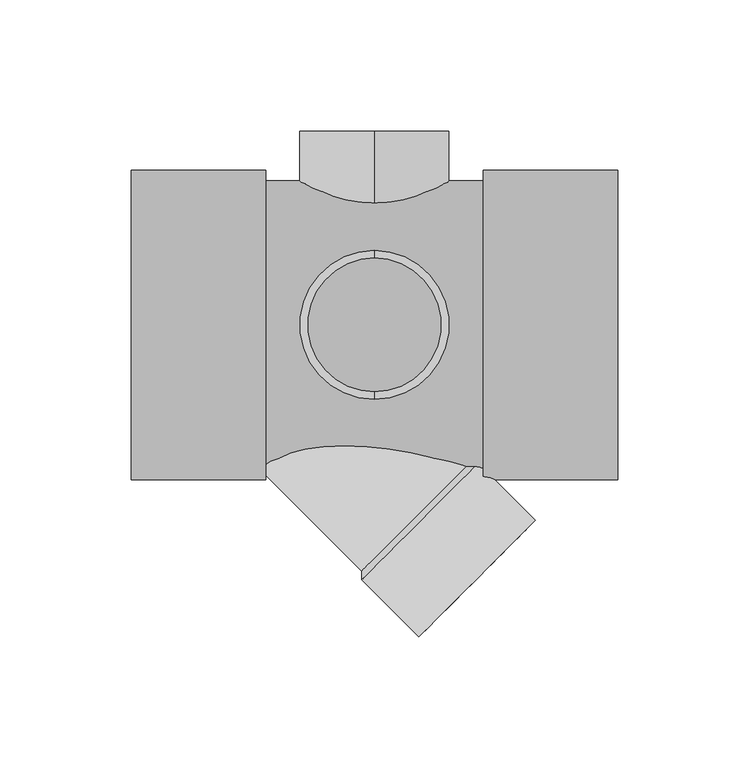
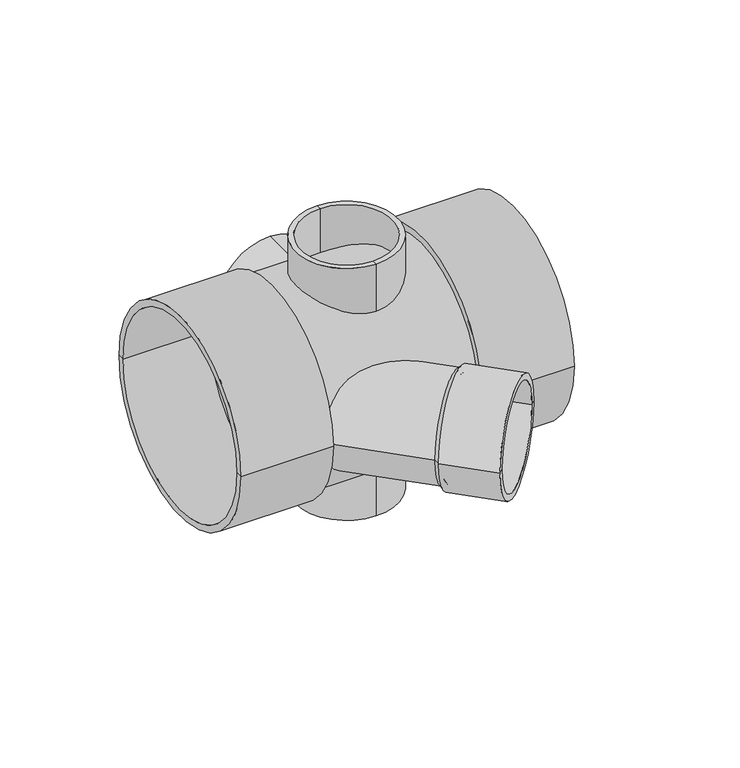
"""IFC4 building model written with IfcOpenShell, lengths in millimetres: pipe fitting geometry, MarleyPlumbingAndDrainage_PipeFitting_BossPipe_SWS4135 : 110x50mm  - Grey."""

from ifc_helpers import new_model, si_unit, frame, origin, place, context, project, spatial, polyline, circle_curve, source, transform, mapped, element, save
from ifc_brep_helpers import plane_surface, cylinder_surface, revolved_surface, advanced_brep


def pipe_fitting_2f369d07(model_context):
    return source(origin(), model_context, "Body", "AdvancedBrep", [
        advanced_brep(
        [(119.0086053, -74.5457309, 0.0), (74.5457309, -119.0086053, 0.0), (52.8316652, -97.2945396, 0.0), (97.2945396, -52.8316652, 0.0), (52.8316652, -93.9004271, 0.0), (93.9004271, -52.8316652, 0.0), (12.9858274, -54.0545893, 0.0), (54.0545893, -12.9858274, 0.0), (33.5202084, -33.5202084, 0.0), (74.3618831, -74.3618831, 0.0), (56.2316652, -92.492101, 0.0), (92.492101, -56.2316652, 0.0), (56.2316652, -95.8862135, 0.0), (95.8862135, -56.2316652, 0.0), (76.9498939, -116.6044422, 0.0), (116.6044422, -76.9498939, 0.0)],
        [
            (0, 1, circle_curve(frame((96.7771681, -96.7771681, 0.0), z_axis=(-0.7071067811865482, 0.7071067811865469, 0.0), x_axis=(-0.7071067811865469, -0.7071067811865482, 0.0)), 31.44)),
            (1, 2),
            (2, 3, circle_curve(frame((75.0631024, -75.0631024, 0.0), z_axis=(0.7071067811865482, -0.7071067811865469, 0.0), x_axis=(-0.7071067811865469, -0.7071067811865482, 0.0)), 31.44)),
            (3, 0),
            (1, 0, circle_curve(frame((96.7771681, -96.7771681, 0.0), z_axis=(-0.7071067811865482, 0.7071067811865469, 0.0), x_axis=(-0.7071067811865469, -0.7071067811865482, 0.0)), 31.44)),
            (3, 2, circle_curve(frame((75.0631024, -75.0631024, 0.0), z_axis=(0.7071067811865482, -0.7071067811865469, 0.0), x_axis=(-0.7071067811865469, -0.7071067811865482, 0.0)), 31.44)),
            (2, 4),
            (4, 5, circle_curve(frame((73.3660461, -73.3660461, 0.0), z_axis=(0.7071067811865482, -0.7071067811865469, 0.0), x_axis=(-0.7071067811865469, -0.7071067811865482, 0.0)), 29.04)),
            (5, 3),
            (5, 4, circle_curve(frame((73.3660461, -73.3660461, 0.0), z_axis=(0.7071067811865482, -0.7071067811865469, 0.0), x_axis=(-0.7071067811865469, -0.7071067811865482, 0.0)), 29.04)),
            (4, 6),
            (6, 7, circle_curve(frame((33.5202084, -33.5202084, 0.0), z_axis=(0.7071067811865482, -0.7071067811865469, 0.0), x_axis=(-0.7071067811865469, -0.7071067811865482, 0.0)), 29.04)),
            (7, 5),
            (7, 6, circle_curve(frame((33.5202084, -33.5202084, 0.0), z_axis=(0.7071067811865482, -0.7071067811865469, 0.0), x_axis=(-0.7071067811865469, -0.7071067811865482, 0.0)), 29.04)),
            (6, 8),
            (8, 7),
            (9, 10),
            (10, 11, circle_curve(frame((74.3618831, -74.3618831, 0.0), z_axis=(0.7071067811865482, -0.7071067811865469, 0.0), x_axis=(-0.7071067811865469, -0.7071067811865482, 0.0)), 25.64)),
            (11, 9),
            (11, 10, circle_curve(frame((74.3618831, -74.3618831, 0.0), z_axis=(0.7071067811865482, -0.7071067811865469, 0.0), x_axis=(-0.7071067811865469, -0.7071067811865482, 0.0)), 25.64)),
            (10, 12),
            (12, 13, circle_curve(frame((76.0589394, -76.0589394, 0.0), z_axis=(0.7071067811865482, -0.7071067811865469, 0.0), x_axis=(-0.7071067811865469, -0.7071067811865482, 0.0)), 28.04)),
            (13, 11),
            (13, 12, circle_curve(frame((76.0589394, -76.0589394, 0.0), z_axis=(0.7071067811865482, -0.7071067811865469, 0.0), x_axis=(-0.7071067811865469, -0.7071067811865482, 0.0)), 28.04)),
            (12, 14),
            (14, 15, circle_curve(frame((96.7771681, -96.7771681, 0.0), z_axis=(0.7071067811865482, -0.7071067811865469, 0.0), x_axis=(-0.7071067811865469, -0.7071067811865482, 0.0)), 28.04)),
            (15, 13),
            (15, 14, circle_curve(frame((96.7771681, -96.7771681, 0.0), z_axis=(0.7071067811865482, -0.7071067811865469, 0.0), x_axis=(-0.7071067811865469, -0.7071067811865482, 0.0)), 28.04)),
            (14, 1),
            (0, 15),
        ],
        [
            cylinder_surface(frame((96.7771681, -96.7771681, 0.0), z_axis=(0.7071067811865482, -0.7071067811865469, 0.0), x_axis=(-0.7071067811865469, -0.7071067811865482, 0.0)), 31.44),
            revolved_surface(polyline([(52.8316652, -93.9004271, 0.0), (52.8316652, -97.2945396, 0.0)]), (96.7771681, -96.7771681, 0.0), (0.7071067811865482, -0.7071067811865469, 0.0)),
            cylinder_surface(frame((96.7771681, -96.7771681, 0.0), z_axis=(0.7071067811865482, -0.7071067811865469, 0.0), x_axis=(-0.7071067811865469, -0.7071067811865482, 0.0)), 29.04),
            plane_surface(frame((33.5202084, -33.5202084, 0.0), z_axis=(-0.7071067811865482, 0.7071067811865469, 0.0), x_axis=(-0.7071067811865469, -0.7071067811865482, 0.0))),
            plane_surface(frame((74.3618831, -74.3618831, 0.0), z_axis=(0.7071067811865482, -0.7071067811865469, 0.0), x_axis=(-0.7071067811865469, -0.7071067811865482, 0.0))),
            revolved_surface(polyline([(56.2316652, -95.8862135, 0.0), (56.2316652, -92.492101, 0.0)]), (96.7771681, -96.7771681, 0.0), (0.7071067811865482, -0.7071067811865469, 0.0)),
            revolved_surface(polyline([(76.94989395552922, -116.60444224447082, 0.0), (56.23166520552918, -95.88621349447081, 0.0)]), (96.7771681, -96.7771681, 0.0), (0.7071067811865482, -0.7071067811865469, 0.0)),
            plane_surface(frame((96.7771681, -96.7771681, 0.0), z_axis=(0.7071067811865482, -0.7071067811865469, 0.0), x_axis=(-0.7071067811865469, -0.7071067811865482, 0.0))),
        ],
        [
            (0, [[1, 2, 3, 4]]),
            (0, [[5, -4, 6, -2]]),
            (1, [[-3, 7, 8, 9]]),
            (1, [[-6, -9, 10, -7]]),
            (2, [[-8, 11, 12, 13]]),
            (2, [[-10, -13, 14, -11]]),
            (3, [[-12, 15, 16]]),
            (3, [[-14, -16, -15]]),
            (4, [[17, 18, 19]]),
            (4, [[-19, 20, -17]]),
            (5, [[-18, 21, 22, 23]]),
            (5, [[-20, -23, 24, -21]]),
            (6, [[-22, 25, 26, 27]]),
            (6, [[-24, -27, 28, -25]]),
            (7, [[-26, 29, -1, 30]]),
            (7, [[-28, -30, -5, -29]]),
        ],
    ),
        advanced_brep(
        [(57.65, -25.5597378, 74.2), (57.65, 25.5597378, 74.2), (57.65, 28.42, 74.2), (57.65, -28.42, 74.2), (57.65, 28.42, 39.2), (57.65, -28.42, 39.2), (57.65, 25.5597378, 39.2), (57.65, -25.5597378, 39.2)],
        [
            (0, 1, circle_curve(frame((57.65, 0.0, 74.2), z_axis=(0.0, 0.0, -1.0), x_axis=(0.0, 1.0, 0.0)), 25.5597378)),
            (1, 2),
            (2, 3, circle_curve(frame((57.65, 0.0, 74.2), z_axis=(0.0, 0.0, 1.0), x_axis=(0.0, 1.0, 0.0)), 28.42)),
            (3, 0),
            (1, 0, circle_curve(frame((57.65, 0.0, 74.2), z_axis=(0.0, 0.0, -1.0), x_axis=(0.0, 1.0, 0.0)), 25.5597378)),
            (3, 2, circle_curve(frame((57.65, 0.0, 74.2), z_axis=(0.0, 0.0, 1.0), x_axis=(0.0, 1.0, 0.0)), 28.42)),
            (2, 4),
            (4, 5, circle_curve(frame((57.65, 0.0, 39.2), z_axis=(0.0, 0.0, 1.0), x_axis=(0.0, 1.0, 0.0)), 28.42)),
            (5, 3),
            (5, 4, circle_curve(frame((57.65, 0.0, 39.2), z_axis=(0.0, 0.0, 1.0), x_axis=(0.0, 1.0, 0.0)), 28.42)),
            (4, 6),
            (6, 7, circle_curve(frame((57.65, 0.0, 39.2), z_axis=(0.0, 0.0, 1.0), x_axis=(0.0, 1.0, 0.0)), 25.5597378)),
            (7, 5),
            (7, 6, circle_curve(frame((57.65, 0.0, 39.2), z_axis=(0.0, 0.0, 1.0), x_axis=(0.0, 1.0, 0.0)), 25.5597378)),
            (6, 1),
            (0, 7),
        ],
        [
            plane_surface(frame((57.65, 0.0, 74.2), z_axis=(0.0, 0.0, 1.0), x_axis=(0.0, 1.0, 0.0))),
            cylinder_surface(frame((57.65, 0.0, 79.2), z_axis=(0.0, 0.0, 1.0), x_axis=(0.0, 1.0, 0.0)), 28.42),
            plane_surface(frame((57.65, 0.0, 39.2), z_axis=(0.0, 0.0, -1.0), x_axis=(0.0, 1.0, 0.0))),
            revolved_surface(polyline([(57.65, 25.5597378, 74.2), (57.65, 25.5597378, 39.2)]), (57.65, 0.0, 79.2), (0.0, 0.0, 1.0)),
        ],
        [
            (0, [[1, 2, 3, 4]]),
            (0, [[5, -4, 6, -2]]),
            (1, [[-3, 7, 8, 9]]),
            (1, [[-6, -9, 10, -7]]),
            (2, [[-8, 11, 12, 13]]),
            (2, [[-10, -13, 14, -11]]),
            (3, [[-12, 15, -1, 16]]),
            (3, [[-14, -16, -5, -15]]),
        ],
    ),
        advanced_brep(
        [(57.65, 73.95, -28.42), (57.65, 73.95, 28.42), (57.65, 73.95, 25.5360435), (57.65, 73.95, -25.5360435), (57.65, 38.95, -28.42), (57.65, 38.95, 28.42), (57.65, 38.95, -25.5360435), (57.65, 38.95, 25.5360435)],
        [
            (0, 1, circle_curve(frame((57.65, 73.95, 0.0), z_axis=(0.0, 1.0, 0.0), x_axis=(0.0, 0.0, 1.0)), 28.42)),
            (1, 2),
            (2, 3, circle_curve(frame((57.65, 73.95, 0.0), z_axis=(0.0, -1.0, 0.0), x_axis=(0.0, 0.0, 1.0)), 25.5360435)),
            (3, 0),
            (1, 0, circle_curve(frame((57.65, 73.95, 0.0), z_axis=(0.0, 1.0, 0.0), x_axis=(0.0, 0.0, 1.0)), 28.42)),
            (3, 2, circle_curve(frame((57.65, 73.95, 0.0), z_axis=(0.0, -1.0, 0.0), x_axis=(0.0, 0.0, 1.0)), 25.5360435)),
            (4, 5, circle_curve(frame((57.65, 38.95, 0.0), z_axis=(0.0, 1.0, 0.0), x_axis=(0.0, 0.0, 1.0)), 28.42)),
            (5, 1),
            (0, 4),
            (5, 4, circle_curve(frame((57.65, 38.95, 0.0), z_axis=(0.0, 1.0, 0.0), x_axis=(0.0, 0.0, 1.0)), 28.42)),
            (6, 7, circle_curve(frame((57.65, 38.95, 0.0), z_axis=(0.0, 1.0, 0.0), x_axis=(0.0, 0.0, 1.0)), 25.5360435)),
            (7, 5),
            (4, 6),
            (7, 6, circle_curve(frame((57.65, 38.95, 0.0), z_axis=(0.0, 1.0, 0.0), x_axis=(0.0, 0.0, 1.0)), 25.5360435)),
            (2, 7),
            (6, 3),
        ],
        [
            plane_surface(frame((57.65, 73.95, 0.0), z_axis=(0.0, 1.0, 0.0), x_axis=(0.0, 0.0, 1.0))),
            cylinder_surface(frame((57.65, 78.95, 0.0), z_axis=(0.0, -1.0, 0.0), x_axis=(0.0, 0.0, 1.0)), 28.42),
            plane_surface(frame((57.65, 38.95, 0.0), z_axis=(0.0, -1.0, 0.0), x_axis=(0.0, 0.0, 1.0))),
            revolved_surface(polyline([(57.65, 38.95, 25.5360435), (57.65, 73.95, 25.5360435)]), (57.65, 78.95, 0.0), (0.0, -1.0, 0.0)),
        ],
        [
            (0, [[1, 2, 3, 4]]),
            (0, [[5, -4, 6, -2]]),
            (1, [[7, 8, -1, 9]]),
            (1, [[10, -9, -5, -8]]),
            (2, [[11, 12, -7, 13]]),
            (2, [[14, -13, -10, -12]]),
            (3, [[-3, 15, -11, 16]]),
            (3, [[-6, -16, -14, -15]]),
        ],
    ),
        advanced_brep(
        [(-35.2, -58.97, 0.0), (-35.2, 58.97, 0.0), (16.2, 58.97, 0.0), (16.2, -58.97, 0.0), (16.2, 54.95, 0.0), (16.2, -54.95, 0.0), (99.1, 54.95, 0.0), (99.1, -54.95, 0.0), (99.1, 58.97, 0.0), (99.1, -58.97, 0.0), (150.5, 58.97, 0.0), (150.5, -58.97, 0.0), (150.5, 55.2, 0.0), (150.5, -55.2, 0.0), (102.5, 55.2, 0.0), (102.5, -55.2, 0.0), (102.5, 0.0, 0.0), (12.8, 0.0, 0.0), (12.8, 55.2, 0.0), (12.8, -55.2, 0.0), (-35.2, 55.2, 0.0), (-35.2, -55.2, 0.0)],
        [
            (0, 1, circle_curve(frame((-35.2, 0.0, 0.0), z_axis=(1.0, 0.0, 0.0), x_axis=(0.0, 1.0, 0.0)), 58.97)),
            (1, 2),
            (2, 3, circle_curve(frame((16.2, 0.0, 0.0), z_axis=(-1.0, 0.0, 0.0), x_axis=(0.0, 1.0, 0.0)), 58.97)),
            (3, 0),
            (1, 0, circle_curve(frame((-35.2, 0.0, 0.0), z_axis=(1.0, 0.0, 0.0), x_axis=(0.0, 1.0, 0.0)), 58.97)),
            (3, 2, circle_curve(frame((16.2, 0.0, 0.0), z_axis=(-1.0, 0.0, 0.0), x_axis=(0.0, 1.0, 0.0)), 58.97)),
            (2, 4),
            (4, 5, circle_curve(frame((16.2, 0.0, 0.0), z_axis=(-1.0, 0.0, 0.0), x_axis=(0.0, 1.0, 0.0)), 54.95)),
            (5, 3),
            (5, 4, circle_curve(frame((16.2, 0.0, 0.0), z_axis=(-1.0, 0.0, 0.0), x_axis=(0.0, 1.0, 0.0)), 54.95)),
            (4, 6),
            (6, 7, circle_curve(frame((99.1, 0.0, 0.0), z_axis=(-1.0, 0.0, 0.0), x_axis=(0.0, 1.0, 0.0)), 54.95)),
            (7, 5),
            (7, 6, circle_curve(frame((99.1, 0.0, 0.0), z_axis=(-1.0, 0.0, 0.0), x_axis=(0.0, 1.0, 0.0)), 54.95)),
            (6, 8),
            (8, 9, circle_curve(frame((99.1, 0.0, 0.0), z_axis=(-1.0, 0.0, 0.0), x_axis=(0.0, 1.0, 0.0)), 58.97)),
            (9, 7),
            (9, 8, circle_curve(frame((99.1, 0.0, 0.0), z_axis=(-1.0, 0.0, 0.0), x_axis=(0.0, 1.0, 0.0)), 58.97)),
            (8, 10),
            (10, 11, circle_curve(frame((150.5, 0.0, 0.0), z_axis=(-1.0, 0.0, 0.0), x_axis=(0.0, 1.0, 0.0)), 58.97)),
            (11, 9),
            (11, 10, circle_curve(frame((150.5, 0.0, 0.0), z_axis=(-1.0, 0.0, 0.0), x_axis=(0.0, 1.0, 0.0)), 58.97)),
            (10, 12),
            (12, 13, circle_curve(frame((150.5, 0.0, 0.0), z_axis=(-1.0, 0.0, 0.0), x_axis=(0.0, 1.0, 0.0)), 55.2)),
            (13, 11),
            (13, 12, circle_curve(frame((150.5, 0.0, 0.0), z_axis=(-1.0, 0.0, 0.0), x_axis=(0.0, 1.0, 0.0)), 55.2)),
            (12, 14),
            (14, 15, circle_curve(frame((102.5, 0.0, 0.0), z_axis=(-1.0, 0.0, 0.0), x_axis=(0.0, 1.0, 0.0)), 55.2)),
            (15, 13),
            (15, 14, circle_curve(frame((102.5, 0.0, 0.0), z_axis=(-1.0, 0.0, 0.0), x_axis=(0.0, 1.0, 0.0)), 55.2)),
            (14, 16),
            (16, 15),
            (17, 18),
            (18, 19, circle_curve(frame((12.8, 0.0, 0.0), z_axis=(-1.0, 0.0, 0.0), x_axis=(0.0, 1.0, 0.0)), 55.2)),
            (19, 17),
            (19, 18, circle_curve(frame((12.8, 0.0, 0.0), z_axis=(-1.0, 0.0, 0.0), x_axis=(0.0, 1.0, 0.0)), 55.2)),
            (18, 20),
            (20, 21, circle_curve(frame((-35.2, 0.0, 0.0), z_axis=(-1.0, 0.0, 0.0), x_axis=(0.0, 1.0, 0.0)), 55.2)),
            (21, 19),
            (21, 20, circle_curve(frame((-35.2, 0.0, 0.0), z_axis=(-1.0, 0.0, 0.0), x_axis=(0.0, 1.0, 0.0)), 55.2)),
            (20, 1),
            (0, 21),
        ],
        [
            cylinder_surface(frame((2000.0, 0.0, 0.0), z_axis=(-1.0, 0.0, 0.0), x_axis=(0.0, 1.0, 0.0)), 58.97),
            plane_surface(frame((16.2, 0.0, 0.0), z_axis=(1.0, 0.0, 0.0), x_axis=(0.0, 1.0, 0.0))),
            cylinder_surface(frame((2000.0, 0.0, 0.0), z_axis=(-1.0, 0.0, 0.0), x_axis=(0.0, 1.0, 0.0)), 54.95),
            plane_surface(frame((99.1, 0.0, 0.0), z_axis=(-1.0, 0.0, 0.0), x_axis=(0.0, 1.0, 0.0))),
            plane_surface(frame((150.5, 0.0, 0.0), z_axis=(1.0, 0.0, 0.0), x_axis=(0.0, 1.0, 0.0))),
            revolved_surface(polyline([(102.5, 55.2, 0.0), (150.5, 55.2, 0.0)]), (2000.0, 0.0, 0.0), (-1.0, 0.0, 0.0)),
            plane_surface(frame((102.5, 0.0, 0.0), z_axis=(1.0, 0.0, 0.0), x_axis=(0.0, 1.0, 0.0))),
            plane_surface(frame((12.8, 0.0, 0.0), z_axis=(-1.0, 0.0, 0.0), x_axis=(0.0, 1.0, 0.0))),
            revolved_surface(polyline([(-35.200000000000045, 55.2, 0.0), (12.799999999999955, 55.2, 0.0)]), (2000.0, 0.0, 0.0), (-1.0, 0.0, 0.0)),
            plane_surface(frame((-35.2, 0.0, 0.0), z_axis=(-1.0, 0.0, 0.0), x_axis=(0.0, 1.0, 0.0))),
        ],
        [
            (0, [[1, 2, 3, 4]]),
            (0, [[5, -4, 6, -2]]),
            (1, [[-3, 7, 8, 9]]),
            (1, [[-6, -9, 10, -7]]),
            (2, [[-8, 11, 12, 13]]),
            (2, [[-10, -13, 14, -11]]),
            (3, [[-12, 15, 16, 17]]),
            (3, [[-14, -17, 18, -15]]),
            (0, [[-16, 19, 20, 21]]),
            (0, [[-18, -21, 22, -19]]),
            (4, [[-20, 23, 24, 25]]),
            (4, [[-22, -25, 26, -23]]),
            (5, [[-24, 27, 28, 29]]),
            (5, [[-26, -29, 30, -27]]),
            (6, [[-28, 31, 32]]),
            (6, [[-30, -32, -31]]),
            (7, [[33, 34, 35]]),
            (7, [[-35, 36, -33]]),
            (8, [[-34, 37, 38, 39]]),
            (8, [[-36, -39, 40, -37]]),
            (9, [[-38, 41, -1, 42]]),
            (9, [[-40, -42, -5, -41]]),
        ],
    ),
        advanced_brep(
        [(57.65, 25.52, -74.2), (57.65, -25.52, -74.2), (57.65, -28.42, -74.2), (57.65, 28.42, -74.2), (57.65, -28.42, -39.2), (57.65, 28.42, -39.2), (57.65, -25.52, -39.2), (57.65, 25.52, -39.2)],
        [
            (0, 1, circle_curve(frame((57.65, 0.0, -74.2), z_axis=(0.0, 0.0, 1.0), x_axis=(0.0, -1.0, 0.0)), 25.52)),
            (1, 2),
            (2, 3, circle_curve(frame((57.65, 0.0, -74.2), z_axis=(0.0, 0.0, -1.0), x_axis=(0.0, -1.0, 0.0)), 28.42)),
            (3, 0),
            (1, 0, circle_curve(frame((57.65, 0.0, -74.2), z_axis=(0.0, 0.0, 1.0), x_axis=(0.0, -1.0, 0.0)), 25.52)),
            (3, 2, circle_curve(frame((57.65, 0.0, -74.2), z_axis=(0.0, 0.0, -1.0), x_axis=(0.0, -1.0, 0.0)), 28.42)),
            (2, 4),
            (4, 5, circle_curve(frame((57.65, 0.0, -39.2), z_axis=(0.0, 0.0, -1.0), x_axis=(0.0, -1.0, 0.0)), 28.42)),
            (5, 3),
            (5, 4, circle_curve(frame((57.65, 0.0, -39.2), z_axis=(0.0, 0.0, -1.0), x_axis=(0.0, -1.0, 0.0)), 28.42)),
            (4, 6),
            (6, 7, circle_curve(frame((57.65, 0.0, -39.2), z_axis=(0.0, 0.0, -1.0), x_axis=(0.0, -1.0, 0.0)), 25.52)),
            (7, 5),
            (7, 6, circle_curve(frame((57.65, 0.0, -39.2), z_axis=(0.0, 0.0, -1.0), x_axis=(0.0, -1.0, 0.0)), 25.52)),
            (6, 1),
            (0, 7),
        ],
        [
            plane_surface(frame((57.65, 0.0, -74.2), z_axis=(0.0, 0.0, -1.0), x_axis=(0.0, -1.0, 0.0))),
            cylinder_surface(frame((57.65, 0.0, -79.2), z_axis=(0.0, 0.0, -1.0), x_axis=(0.0, -1.0, 0.0)), 28.42),
            plane_surface(frame((57.65, 0.0, -39.2), z_axis=(0.0, 0.0, 1.0), x_axis=(0.0, -1.0, 0.0))),
            revolved_surface(polyline([(57.65, -25.52, -74.2), (57.65, -25.52, -39.2)]), (57.65, 0.0, -79.2), (0.0, 0.0, -1.0)),
        ],
        [
            (0, [[1, 2, 3, 4]]),
            (0, [[5, -4, 6, -2]]),
            (1, [[-3, 7, 8, 9]]),
            (1, [[-6, -9, 10, -7]]),
            (2, [[-8, 11, 12, 13]]),
            (2, [[-10, -13, 14, -11]]),
            (3, [[-12, 15, -1, 16]]),
            (3, [[-14, -16, -5, -15]]),
        ],
    ),
    ])


if __name__ == "__main__":
    model = new_model("IFC4")
    model_context = context("Model", 3, world=origin())
    ifc_project = project(units=[si_unit("LENGTHUNIT", "METRE", prefix="MILLI")], contexts=[model_context])
    site = spatial("IfcSite", under=ifc_project)
    building = spatial("IfcBuilding", under=site)
    placement = place(None, origin())
    pipe_fitting_shape = pipe_fitting_2f369d07(model_context)
    element("IfcPipeFitting", 1, ObjectType="MarleyPlumbingAndDrainage_PipeFitting_BossPipe_SWS4135 : 110x50mm  - Grey", at=placement, inside=building, context=model_context, shape_type="MappedRepresentation", body=[
        mapped(pipe_fitting_shape, transform((0.0, 0.0, 0.0), x_axis=(1.0, 0.0, 0.0), y_axis=(0.0, 1.0, 0.0), z_axis=(0.0, 0.0, 1.0))),
    ])
    save(model, "model.ifc")
